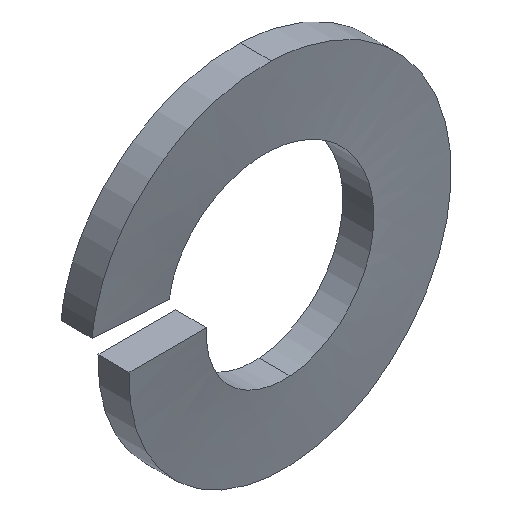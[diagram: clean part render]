
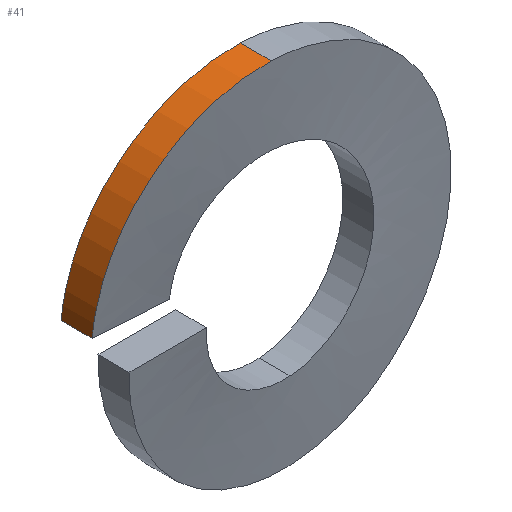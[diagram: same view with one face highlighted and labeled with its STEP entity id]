
A CAD part, isometric view. The second image highlights one B-rep face of the part: STEP entity #41.
In plain terms, the highlighted cylindrical face has radius 2.2 mm (diameter 4.4 mm), a partial arc.
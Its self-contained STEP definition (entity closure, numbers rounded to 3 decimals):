
#31=CYLINDRICAL_SURFACE('',#205,2.2);
#41=ADVANCED_FACE('',(#51),#31,.T.);
#51=FACE_OUTER_BOUND('',#61,.F.);
#61=EDGE_LOOP('',(#97,#98,#99,#100));
#97=ORIENTED_EDGE('',*,*,#146,.F.);
#98=ORIENTED_EDGE('',*,*,#147,.F.);
#99=ORIENTED_EDGE('',*,*,#142,.F.);
#100=ORIENTED_EDGE('',*,*,#148,.T.);
#129=B_SPLINE_CURVE_WITH_KNOTS('',2,(#339,#340,#341,#342,#343,#344,#345,
#346),.UNSPECIFIED.,.F.,.F.,(3,1,1,1,1,1,3),(0.,0.15,0.3,
0.5,0.7,0.85,1.),.UNSPECIFIED.);
#130=B_SPLINE_CURVE_WITH_KNOTS('',2,(#347,#348,#349,#350,#351,#352,#353,
#354),.UNSPECIFIED.,.F.,.F.,(3,1,1,1,1,1,3),(0.,0.15,0.3,
0.5,0.7,0.85,1.),.UNSPECIFIED.);
#142=EDGE_CURVE('',#192,#191,#162,.T.);
#146=EDGE_CURVE('',#188,#187,#164,.T.);
#147=EDGE_CURVE('',#191,#188,#129,.T.);
#148=EDGE_CURVE('',#192,#187,#130,.T.);
#162=LINE('',#308,#174);
#164=LINE('',#338,#176);
#174=VECTOR('',#215,0.4);
#176=VECTOR('',#217,0.4);
#187=VERTEX_POINT('',#247);
#188=VERTEX_POINT('',#248);
#191=VERTEX_POINT('',#251);
#192=VERTEX_POINT('',#252);
#205=AXIS2_PLACEMENT_3D('',#535,#232,#233);
#215=DIRECTION('',(0.,1.,0.));
#217=DIRECTION('',(0.,-1.,0.));
#232=DIRECTION('',(0.,1.,0.));
#233=DIRECTION('',(-1.,0.,-0.024));
#247=CARTESIAN_POINT('',(-2.196,0.48,0.138));
#248=CARTESIAN_POINT('',(-2.196,0.88,0.138));
#251=CARTESIAN_POINT('',(0.,0.764,2.2));
#252=CARTESIAN_POINT('',(0.,0.364,2.2));
#308=CARTESIAN_POINT('',(0.,0.364,2.2));
#338=CARTESIAN_POINT('',(-2.196,0.88,0.138));
#339=CARTESIAN_POINT('',(0.,0.764,2.2));
#340=CARTESIAN_POINT('',(-0.25,0.773,2.2));
#341=CARTESIAN_POINT('',(-0.736,0.791,2.088));
#342=CARTESIAN_POINT('',(-1.262,0.809,1.833));
#343=CARTESIAN_POINT('',(-1.749,0.833,1.375));
#344=CARTESIAN_POINT('',(-2.038,0.855,0.866));
#345=CARTESIAN_POINT('',(-2.18,0.872,0.388));
#346=CARTESIAN_POINT('',(-2.196,0.88,0.138));
#347=CARTESIAN_POINT('',(0.,0.364,2.2));
#348=CARTESIAN_POINT('',(-0.25,0.373,2.2));
#349=CARTESIAN_POINT('',(-0.736,0.391,2.088));
#350=CARTESIAN_POINT('',(-1.262,0.409,1.833));
#351=CARTESIAN_POINT('',(-1.749,0.433,1.375));
#352=CARTESIAN_POINT('',(-2.038,0.455,0.866));
#353=CARTESIAN_POINT('',(-2.18,0.472,0.388));
#354=CARTESIAN_POINT('',(-2.196,0.48,0.138));
#535=CARTESIAN_POINT('',(0.,0.906,0.));
